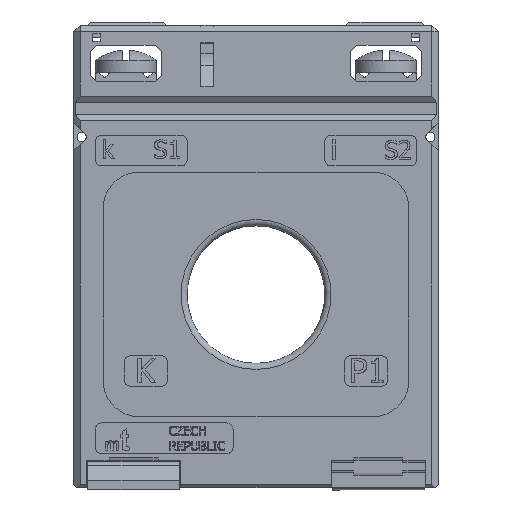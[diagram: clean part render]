
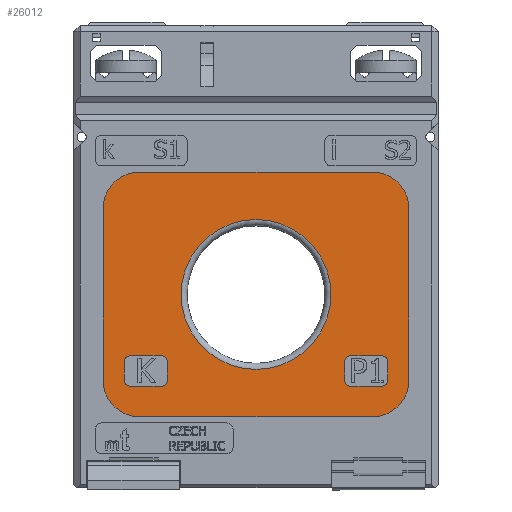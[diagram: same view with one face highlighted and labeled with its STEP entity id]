
A CAD part, top view. The second image highlights one B-rep face of the part: STEP entity #26012.
In plain terms, the highlighted planar face has unit normal (0, 0, 1) as drawn and (0, 0, -1) by its records, which use the part's own axes.
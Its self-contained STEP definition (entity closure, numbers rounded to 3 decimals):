
#1609=FACE_BOUND('',#9801,.T.);
#1610=FACE_BOUND('',#9802,.T.);
#1611=FACE_BOUND('',#9803,.T.);
#1724=LINE('',#34279,#4603);
#1725=LINE('',#34283,#4604);
#1726=LINE('',#34287,#4605);
#1727=LINE('',#34291,#4606);
#1728=LINE('',#34297,#4607);
#1729=LINE('',#34301,#4608);
#1730=LINE('',#34305,#4609);
#1731=LINE('',#34308,#4610);
#1732=LINE('',#34311,#4611);
#1733=LINE('',#34315,#4612);
#1734=LINE('',#34319,#4613);
#1735=LINE('',#34323,#4614);
#4603=VECTOR('',#28901,10.);
#4604=VECTOR('',#28904,10.);
#4605=VECTOR('',#28907,10.);
#4606=VECTOR('',#28910,10.);
#4607=VECTOR('',#28915,10.);
#4608=VECTOR('',#28918,10.);
#4609=VECTOR('',#28921,10.);
#4610=VECTOR('',#28924,10.);
#4611=VECTOR('',#28925,10.);
#4612=VECTOR('',#28928,10.);
#4613=VECTOR('',#28931,10.);
#4614=VECTOR('',#28934,10.);
#7482=PLANE('',#27642);
#8383=FACE_OUTER_BOUND('',#9800,.T.);
#9800=EDGE_LOOP('',(#18123,#18124,#18125,#18126,#18127,#18128,#18129,#18130));
#9801=EDGE_LOOP('',(#18131,#18132,#18133,#18134,#18135,#18136,#18137,#18138));
#9802=EDGE_LOOP('',(#18139,#18140,#18141,#18142,#18143,#18144,#18145,#18146));
#9803=EDGE_LOOP('',(#18147));
#11333=CIRCLE('',#27641,12.25);
#11334=CIRCLE('',#27643,6.);
#11335=CIRCLE('',#27644,6.);
#11336=CIRCLE('',#27645,6.);
#11337=CIRCLE('',#27646,6.);
#11338=CIRCLE('',#27647,1.);
#11339=CIRCLE('',#27648,1.);
#11340=CIRCLE('',#27649,1.);
#11341=CIRCLE('',#27650,1.);
#11342=CIRCLE('',#27651,1.);
#11343=CIRCLE('',#27652,1.);
#11344=CIRCLE('',#27653,1.);
#11345=CIRCLE('',#27654,1.);
#11558=VERTEX_POINT('',#34273);
#11559=VERTEX_POINT('',#34277);
#11560=VERTEX_POINT('',#34278);
#11561=VERTEX_POINT('',#34280);
#11562=VERTEX_POINT('',#34282);
#11563=VERTEX_POINT('',#34284);
#11564=VERTEX_POINT('',#34286);
#11565=VERTEX_POINT('',#34288);
#11566=VERTEX_POINT('',#34290);
#11567=VERTEX_POINT('',#34293);
#11568=VERTEX_POINT('',#34294);
#11569=VERTEX_POINT('',#34296);
#11570=VERTEX_POINT('',#34298);
#11571=VERTEX_POINT('',#34300);
#11572=VERTEX_POINT('',#34302);
#11573=VERTEX_POINT('',#34304);
#11574=VERTEX_POINT('',#34306);
#11575=VERTEX_POINT('',#34309);
#11576=VERTEX_POINT('',#34310);
#11577=VERTEX_POINT('',#34312);
#11578=VERTEX_POINT('',#34314);
#11579=VERTEX_POINT('',#34316);
#11580=VERTEX_POINT('',#34318);
#11581=VERTEX_POINT('',#34320);
#11582=VERTEX_POINT('',#34322);
#14176=EDGE_CURVE('',#11558,#11558,#11333,.T.);
#14177=EDGE_CURVE('',#11559,#11560,#1724,.T.);
#14178=EDGE_CURVE('',#11561,#11559,#11334,.T.);
#14179=EDGE_CURVE('',#11562,#11561,#1725,.T.);
#14180=EDGE_CURVE('',#11563,#11562,#11335,.T.);
#14181=EDGE_CURVE('',#11564,#11563,#1726,.T.);
#14182=EDGE_CURVE('',#11565,#11564,#11336,.T.);
#14183=EDGE_CURVE('',#11566,#11565,#1727,.T.);
#14184=EDGE_CURVE('',#11560,#11566,#11337,.T.);
#14185=EDGE_CURVE('',#11567,#11568,#11338,.T.);
#14186=EDGE_CURVE('',#11568,#11569,#1728,.T.);
#14187=EDGE_CURVE('',#11569,#11570,#11339,.T.);
#14188=EDGE_CURVE('',#11570,#11571,#1729,.T.);
#14189=EDGE_CURVE('',#11571,#11572,#11340,.T.);
#14190=EDGE_CURVE('',#11572,#11573,#1730,.T.);
#14191=EDGE_CURVE('',#11573,#11574,#11341,.T.);
#14192=EDGE_CURVE('',#11574,#11567,#1731,.T.);
#14193=EDGE_CURVE('',#11575,#11576,#1732,.T.);
#14194=EDGE_CURVE('',#11576,#11577,#11342,.T.);
#14195=EDGE_CURVE('',#11577,#11578,#1733,.T.);
#14196=EDGE_CURVE('',#11578,#11579,#11343,.T.);
#14197=EDGE_CURVE('',#11579,#11580,#1734,.T.);
#14198=EDGE_CURVE('',#11580,#11581,#11344,.T.);
#14199=EDGE_CURVE('',#11581,#11582,#1735,.T.);
#14200=EDGE_CURVE('',#11582,#11575,#11345,.T.);
#18123=ORIENTED_EDGE('',*,*,#14177,.F.);
#18124=ORIENTED_EDGE('',*,*,#14178,.F.);
#18125=ORIENTED_EDGE('',*,*,#14179,.F.);
#18126=ORIENTED_EDGE('',*,*,#14180,.F.);
#18127=ORIENTED_EDGE('',*,*,#14181,.F.);
#18128=ORIENTED_EDGE('',*,*,#14182,.F.);
#18129=ORIENTED_EDGE('',*,*,#14183,.F.);
#18130=ORIENTED_EDGE('',*,*,#14184,.F.);
#18131=ORIENTED_EDGE('',*,*,#14185,.T.);
#18132=ORIENTED_EDGE('',*,*,#14186,.T.);
#18133=ORIENTED_EDGE('',*,*,#14187,.T.);
#18134=ORIENTED_EDGE('',*,*,#14188,.T.);
#18135=ORIENTED_EDGE('',*,*,#14189,.T.);
#18136=ORIENTED_EDGE('',*,*,#14190,.T.);
#18137=ORIENTED_EDGE('',*,*,#14191,.T.);
#18138=ORIENTED_EDGE('',*,*,#14192,.T.);
#18139=ORIENTED_EDGE('',*,*,#14193,.T.);
#18140=ORIENTED_EDGE('',*,*,#14194,.T.);
#18141=ORIENTED_EDGE('',*,*,#14195,.T.);
#18142=ORIENTED_EDGE('',*,*,#14196,.T.);
#18143=ORIENTED_EDGE('',*,*,#14197,.T.);
#18144=ORIENTED_EDGE('',*,*,#14198,.T.);
#18145=ORIENTED_EDGE('',*,*,#14199,.T.);
#18146=ORIENTED_EDGE('',*,*,#14200,.T.);
#18147=ORIENTED_EDGE('',*,*,#14176,.F.);
#26012=ADVANCED_FACE('',(#8383,#1609,#1610,#1611),#7482,.T.);
#27641=AXIS2_PLACEMENT_3D('',#34275,#28897,#28898);
#27642=AXIS2_PLACEMENT_3D('',#34276,#28899,#28900);
#27643=AXIS2_PLACEMENT_3D('',#34281,#28902,#28903);
#27644=AXIS2_PLACEMENT_3D('',#34285,#28905,#28906);
#27645=AXIS2_PLACEMENT_3D('',#34289,#28908,#28909);
#27646=AXIS2_PLACEMENT_3D('',#34292,#28911,#28912);
#27647=AXIS2_PLACEMENT_3D('',#34295,#28913,#28914);
#27648=AXIS2_PLACEMENT_3D('',#34299,#28916,#28917);
#27649=AXIS2_PLACEMENT_3D('',#34303,#28919,#28920);
#27650=AXIS2_PLACEMENT_3D('',#34307,#28922,#28923);
#27651=AXIS2_PLACEMENT_3D('',#34313,#28926,#28927);
#27652=AXIS2_PLACEMENT_3D('',#34317,#28929,#28930);
#27653=AXIS2_PLACEMENT_3D('',#34321,#28932,#28933);
#27654=AXIS2_PLACEMENT_3D('',#34324,#28935,#28936);
#28897=DIRECTION('center_axis',(0.,0.,-1.));
#28898=DIRECTION('ref_axis',(-1.,0.,0.));
#28899=DIRECTION('center_axis',(0.,0.,-1.));
#28900=DIRECTION('ref_axis',(-1.,0.,0.));
#28901=DIRECTION('',(1.,0.,0.));
#28902=DIRECTION('center_axis',(0.,0.,1.));
#28903=DIRECTION('ref_axis',(0.,-1.,0.));
#28904=DIRECTION('',(0.,-1.,0.));
#28905=DIRECTION('center_axis',(0.,0.,1.));
#28906=DIRECTION('ref_axis',(-1.,0.,0.));
#28907=DIRECTION('',(-1.,0.,0.));
#28908=DIRECTION('center_axis',(0.,0.,1.));
#28909=DIRECTION('ref_axis',(0.,1.,0.));
#28910=DIRECTION('',(0.,1.,0.));
#28911=DIRECTION('center_axis',(0.,0.,1.));
#28912=DIRECTION('ref_axis',(1.,0.,0.));
#28913=DIRECTION('center_axis',(0.,0.,1.));
#28914=DIRECTION('ref_axis',(-1.,0.,0.));
#28915=DIRECTION('',(0.,-1.,0.));
#28916=DIRECTION('center_axis',(0.,0.,1.));
#28917=DIRECTION('ref_axis',(0.,-1.,0.));
#28918=DIRECTION('',(1.,0.,0.));
#28919=DIRECTION('center_axis',(0.,0.,1.));
#28920=DIRECTION('ref_axis',(1.,0.,0.));
#28921=DIRECTION('',(0.,1.,0.));
#28922=DIRECTION('center_axis',(0.,0.,1.));
#28923=DIRECTION('ref_axis',(0.,1.,0.));
#28924=DIRECTION('',(-1.,0.,0.));
#28925=DIRECTION('',(0.,-1.,0.));
#28926=DIRECTION('center_axis',(0.,0.,1.));
#28927=DIRECTION('ref_axis',(0.,-1.,0.));
#28928=DIRECTION('',(1.,0.,0.));
#28929=DIRECTION('center_axis',(0.,0.,1.));
#28930=DIRECTION('ref_axis',(1.,0.,0.));
#28931=DIRECTION('',(0.,1.,0.));
#28932=DIRECTION('center_axis',(0.,0.,1.));
#28933=DIRECTION('ref_axis',(0.,1.,0.));
#28934=DIRECTION('',(-1.,0.,0.));
#28935=DIRECTION('center_axis',(0.,0.,1.));
#28936=DIRECTION('ref_axis',(-1.,0.,0.));
#34273=CARTESIAN_POINT('',(12.25,31.5,0.1));
#34275=CARTESIAN_POINT('Origin',(0.,31.5,0.1));
#34276=CARTESIAN_POINT('Origin',(0.,31.5,0.1));
#34277=CARTESIAN_POINT('',(-19.,11.5,0.1));
#34278=CARTESIAN_POINT('',(19.,11.5,0.1));
#34279=CARTESIAN_POINT('',(19.,11.5,0.1));
#34280=CARTESIAN_POINT('',(-25.,17.5,0.1));
#34281=CARTESIAN_POINT('Origin',(-19.,17.5,0.1));
#34282=CARTESIAN_POINT('',(-25.,45.5,0.1));
#34283=CARTESIAN_POINT('',(-25.,17.5,0.1));
#34284=CARTESIAN_POINT('',(-19.,51.5,0.1));
#34285=CARTESIAN_POINT('Origin',(-19.,45.5,0.1));
#34286=CARTESIAN_POINT('',(19.,51.5,0.1));
#34287=CARTESIAN_POINT('',(-19.,51.5,0.1));
#34288=CARTESIAN_POINT('',(25.,45.5,0.1));
#34289=CARTESIAN_POINT('Origin',(19.,45.5,0.1));
#34290=CARTESIAN_POINT('',(25.,17.5,0.1));
#34291=CARTESIAN_POINT('',(25.,45.5,0.1));
#34292=CARTESIAN_POINT('Origin',(19.,17.5,0.1));
#34293=CARTESIAN_POINT('',(-20.5,21.5,0.1));
#34294=CARTESIAN_POINT('',(-21.5,20.5,0.1));
#34295=CARTESIAN_POINT('Origin',(-20.5,20.5,0.1));
#34296=CARTESIAN_POINT('',(-21.5,17.5,0.1));
#34297=CARTESIAN_POINT('',(-21.5,26.,0.1));
#34298=CARTESIAN_POINT('',(-20.5,16.5,0.1));
#34299=CARTESIAN_POINT('Origin',(-20.5,17.5,0.1));
#34300=CARTESIAN_POINT('',(-15.5,16.5,0.1));
#34301=CARTESIAN_POINT('',(-10.25,16.5,0.1));
#34302=CARTESIAN_POINT('',(-14.5,17.5,0.1));
#34303=CARTESIAN_POINT('Origin',(-15.5,17.5,0.1));
#34304=CARTESIAN_POINT('',(-14.5,20.5,0.1));
#34305=CARTESIAN_POINT('',(-14.5,24.5,0.1));
#34306=CARTESIAN_POINT('',(-15.5,21.5,0.1));
#34307=CARTESIAN_POINT('Origin',(-15.5,20.5,0.1));
#34308=CARTESIAN_POINT('',(-7.75,21.5,0.1));
#34309=CARTESIAN_POINT('',(14.5,20.5,0.1));
#34310=CARTESIAN_POINT('',(14.5,17.5,0.1));
#34311=CARTESIAN_POINT('',(14.5,26.,0.1));
#34312=CARTESIAN_POINT('',(15.5,16.5,0.1));
#34313=CARTESIAN_POINT('Origin',(15.5,17.5,0.1));
#34314=CARTESIAN_POINT('',(20.5,16.5,0.1));
#34315=CARTESIAN_POINT('',(7.75,16.5,0.1));
#34316=CARTESIAN_POINT('',(21.5,17.5,0.1));
#34317=CARTESIAN_POINT('Origin',(20.5,17.5,0.1));
#34318=CARTESIAN_POINT('',(21.5,20.5,0.1));
#34319=CARTESIAN_POINT('',(21.5,24.5,0.1));
#34320=CARTESIAN_POINT('',(20.5,21.5,0.1));
#34321=CARTESIAN_POINT('Origin',(20.5,20.5,0.1));
#34322=CARTESIAN_POINT('',(15.5,21.5,0.1));
#34323=CARTESIAN_POINT('',(10.25,21.5,0.1));
#34324=CARTESIAN_POINT('Origin',(15.5,20.5,0.1));
